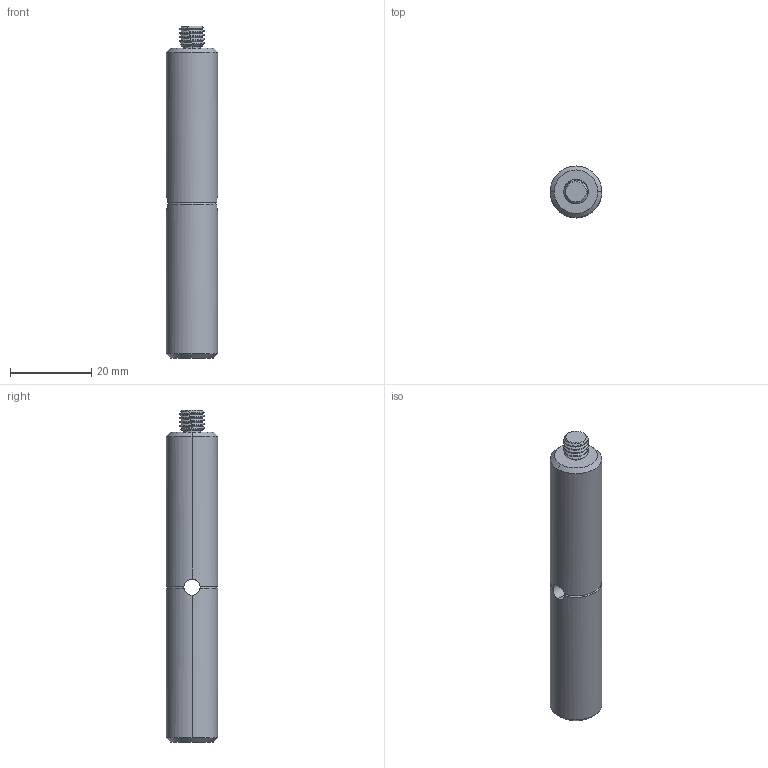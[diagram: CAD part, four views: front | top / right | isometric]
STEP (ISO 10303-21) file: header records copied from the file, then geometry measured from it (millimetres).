
FILE_DESCRIPTION((''),'2;1');
FILE_NAME('PCAH3-A','2023-03-14T14:26:35',('R&D'),(''),'CREO PARAMETRIC BY PTC INC, 2022162','CREO PARAMETRIC BY PTC INC, 2022162','');
FILE_SCHEMA(('CONFIG_CONTROL_DESIGN'));
Length unit declared in the file: millimetre
Products named in the file (1): PCAH3-A
Bounding box: 12.7 x 12.7 x 81.7 mm (x, y, z)
Volume: 9299.5 mm3; surface area: 3779.8 mm2
Topology: 1 solids, 1 shells, 69 faces, 184 edges, 116 vertices
Faces by surface type: cylinder 37, bspline 14, cone 12, plane 4, torus 2
Entity records: 4659 total; most frequent: CARTESIAN_POINT 3114, ORIENTED_EDGE 364, DIRECTION 229, EDGE_CURVE 182, VERTEX_POINT 116, B_SPLINE_CURVE_WITH_KNOTS 93, AXIS2_PLACEMENT_3D 85, EDGE_LOOP 72
